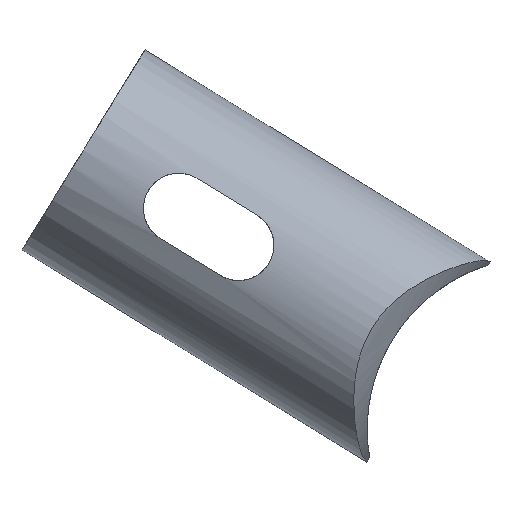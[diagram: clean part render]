
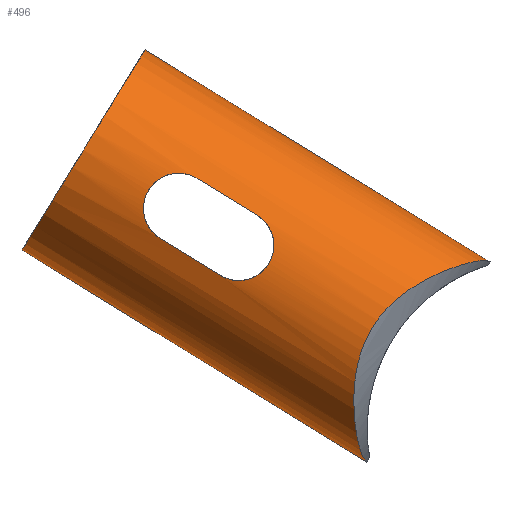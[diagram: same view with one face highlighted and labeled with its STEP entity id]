
A CAD part, left-side view. The second image highlights one B-rep face of the part: STEP entity #496.
In plain terms, the highlighted cylindrical face has radius 5 mm (diameter 10 mm), a partial arc.
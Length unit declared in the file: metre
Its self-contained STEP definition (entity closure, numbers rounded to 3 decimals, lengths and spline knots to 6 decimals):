
#16=CIRCLE('',#545,0.005);
#26=B_SPLINE_CURVE_WITH_KNOTS('',3,(#774,#775,#776,#777,#778,#779,#780),
 .UNSPECIFIED.,.F.,.F.,(4,1,1,1,4),(0.,0.001179,
0.002358,0.003536,0.004715),
 .UNSPECIFIED.);
#27=B_SPLINE_CURVE_WITH_KNOTS('',3,(#785,#786,#787,#788,#789,#790,#791),
 .UNSPECIFIED.,.F.,.F.,(4,1,1,1,4),(0.,0.001179,0.002358,
0.003536,0.004715),.UNSPECIFIED.);
#28=B_SPLINE_CURVE_WITH_KNOTS('',3,(#801,#802,#803,#804,#805,#806,#807,
#808,#809,#810,#811),.UNSPECIFIED.,.F.,.F.,(4,1,1,1,1,1,1,1,4),(0.,0.002086,
0.004172,0.006259,0.008345,0.010431,
0.012517,0.014603,0.01669),.UNSPECIFIED.);
#36=CYLINDRICAL_SURFACE('',#544,0.005);
#75=ORIENTED_EDGE('',*,*,#212,.T.);
#76=ORIENTED_EDGE('',*,*,#213,.F.);
#77=ORIENTED_EDGE('',*,*,#214,.T.);
#78=ORIENTED_EDGE('',*,*,#215,.F.);
#79=ORIENTED_EDGE('',*,*,#216,.F.);
#80=ORIENTED_EDGE('',*,*,#198,.F.);
#81=ORIENTED_EDGE('',*,*,#217,.F.);
#82=ORIENTED_EDGE('',*,*,#218,.F.);
#83=ORIENTED_EDGE('',*,*,#219,.T.);
#84=ORIENTED_EDGE('',*,*,#200,.T.);
#85=ORIENTED_EDGE('',*,*,#209,.T.);
#86=ORIENTED_EDGE('',*,*,#220,.F.);
#198=EDGE_CURVE('',#267,#268,#307,.T.);
#200=EDGE_CURVE('',#266,#269,#309,.T.);
#209=EDGE_CURVE('',#269,#257,#316,.T.);
#212=EDGE_CURVE('',#278,#279,#26,.T.);
#213=EDGE_CURVE('',#280,#279,#319,.F.);
#214=EDGE_CURVE('',#280,#281,#27,.T.);
#215=EDGE_CURVE('',#278,#281,#320,.T.);
#216=EDGE_CURVE('',#268,#282,#321,.T.);
#217=EDGE_CURVE('',#283,#267,#322,.T.);
#218=EDGE_CURVE('',#284,#283,#16,.T.);
#219=EDGE_CURVE('',#284,#266,#323,.T.);
#220=EDGE_CURVE('',#282,#257,#28,.T.);
#257=VERTEX_POINT('',#718);
#266=VERTEX_POINT('',#745);
#267=VERTEX_POINT('',#746);
#268=VERTEX_POINT('',#748);
#269=VERTEX_POINT('',#750);
#278=VERTEX_POINT('',#781);
#279=VERTEX_POINT('',#782);
#280=VERTEX_POINT('',#784);
#281=VERTEX_POINT('',#792);
#282=VERTEX_POINT('',#795);
#283=VERTEX_POINT('',#797);
#284=VERTEX_POINT('',#799);
#307=LINE('',#747,#353);
#309=LINE('',#751,#355);
#316=LINE('',#770,#362);
#319=LINE('',#783,#365);
#320=LINE('',#793,#366);
#321=LINE('',#794,#367);
#322=LINE('',#796,#368);
#323=LINE('',#800,#369);
#353=VECTOR('',#598,1.);
#355=VECTOR('',#600,1.);
#362=VECTOR('',#615,1.);
#365=VECTOR('',#620,1.);
#366=VECTOR('',#621,1.);
#367=VECTOR('',#622,1.);
#368=VECTOR('',#623,1.);
#369=VECTOR('',#626,1.);
#398=EDGE_LOOP('',(#75,#76,#77,#78));
#399=EDGE_LOOP('',(#79,#80,#81,#82,#83,#84,#85,#86));
#439=FACE_BOUND('',#398,.T.);
#440=FACE_BOUND('',#399,.T.);
#496=ADVANCED_FACE('',(#439,#440),#36,.T.);
#544=AXIS2_PLACEMENT_3D('',#773,#618,#619);
#545=AXIS2_PLACEMENT_3D('',#798,#624,#625);
#598=DIRECTION('',(0.,-0.852,-0.524));
#600=DIRECTION('',(0.,-0.852,-0.524));
#615=DIRECTION('',(0.,-0.852,-0.524));
#618=DIRECTION('',(0.,-0.852,-0.524));
#619=DIRECTION('',(0.,0.524,-0.852));
#620=DIRECTION('',(0.,-0.852,-0.524));
#621=DIRECTION('',(0.,-0.852,-0.524));
#622=DIRECTION('',(0.,-0.852,-0.524));
#623=DIRECTION('',(0.,-0.852,-0.524));
#624=DIRECTION('',(0.,0.852,0.524));
#625=DIRECTION('',(0.,0.524,-0.852));
#626=DIRECTION('',(0.,-0.852,-0.524));
#718=CARTESIAN_POINT('',(0.066595,0.003925,-0.055476));
#745=CARTESIAN_POINT('',(0.066595,0.01589,-0.048124));
#746=CARTESIAN_POINT('',(0.066595,0.010654,-0.039604));
#747=CARTESIAN_POINT('',(0.066595,0.026026,-0.030158));
#748=CARTESIAN_POINT('',(0.066595,0.004422,-0.043433));
#750=CARTESIAN_POINT('',(0.066595,0.009657,-0.051953));
#751=CARTESIAN_POINT('',(0.066595,0.031261,-0.038678));
#770=CARTESIAN_POINT('',(0.066595,0.031261,-0.038678));
#773=CARTESIAN_POINT('',(0.066595,0.028643,-0.034418));
#774=CARTESIAN_POINT('',(0.061826,0.012724,-0.045961));
#775=CARTESIAN_POINT('',(0.061826,0.013063,-0.045752));
#776=CARTESIAN_POINT('',(0.061708,0.013552,-0.045071));
#777=CARTESIAN_POINT('',(0.061539,0.013357,-0.043814));
#778=CARTESIAN_POINT('',(0.061708,0.012322,-0.043068));
#779=CARTESIAN_POINT('',(0.061826,0.011493,-0.043196));
#780=CARTESIAN_POINT('',(0.061826,0.011153,-0.043405));
#781=CARTESIAN_POINT('',(0.061826,0.012724,-0.045961));
#782=CARTESIAN_POINT('',(0.061826,0.011153,-0.043405));
#783=CARTESIAN_POINT('',(0.061826,0.027858,-0.03314));
#784=CARTESIAN_POINT('',(0.061826,0.008597,-0.044976));
#785=CARTESIAN_POINT('',(0.061826,0.008597,-0.044976));
#786=CARTESIAN_POINT('',(0.061826,0.008257,-0.045184));
#787=CARTESIAN_POINT('',(0.061708,0.007769,-0.045866));
#788=CARTESIAN_POINT('',(0.061539,0.007963,-0.047123));
#789=CARTESIAN_POINT('',(0.061708,0.008999,-0.047869));
#790=CARTESIAN_POINT('',(0.061826,0.009828,-0.04774));
#791=CARTESIAN_POINT('',(0.061826,0.010168,-0.047532));
#792=CARTESIAN_POINT('',(0.061826,0.010168,-0.047532));
#793=CARTESIAN_POINT('',(0.061826,0.029429,-0.035696));
#794=CARTESIAN_POINT('',(0.066595,0.026026,-0.030158));
#795=CARTESIAN_POINT('',(0.066595,-0.001311,-0.046956));
#796=CARTESIAN_POINT('',(0.066595,0.026026,-0.030158));
#797=CARTESIAN_POINT('',(0.066595,0.013368,-0.037936));
#798=CARTESIAN_POINT('',(0.066595,0.015985,-0.042196));
#799=CARTESIAN_POINT('',(0.066595,0.018603,-0.046456));
#800=CARTESIAN_POINT('',(0.066595,0.031261,-0.038678));
#801=CARTESIAN_POINT('',(0.066595,-0.001311,-0.046956));
#802=CARTESIAN_POINT('',(0.065903,-0.001189,-0.046881));
#803=CARTESIAN_POINT('',(0.064583,-0.000664,-0.046894));
#804=CARTESIAN_POINT('',(0.062997,0.000697,-0.047325));
#805=CARTESIAN_POINT('',(0.061904,0.002317,-0.048154));
#806=CARTESIAN_POINT('',(0.061441,0.003848,-0.049661));
#807=CARTESIAN_POINT('',(0.061904,0.004494,-0.051697));
#808=CARTESIAN_POINT('',(0.062999,0.004502,-0.053519));
#809=CARTESIAN_POINT('',(0.064577,0.004273,-0.054923));
#810=CARTESIAN_POINT('',(0.065903,0.004047,-0.055401));
#811=CARTESIAN_POINT('',(0.066595,0.003925,-0.055476));
